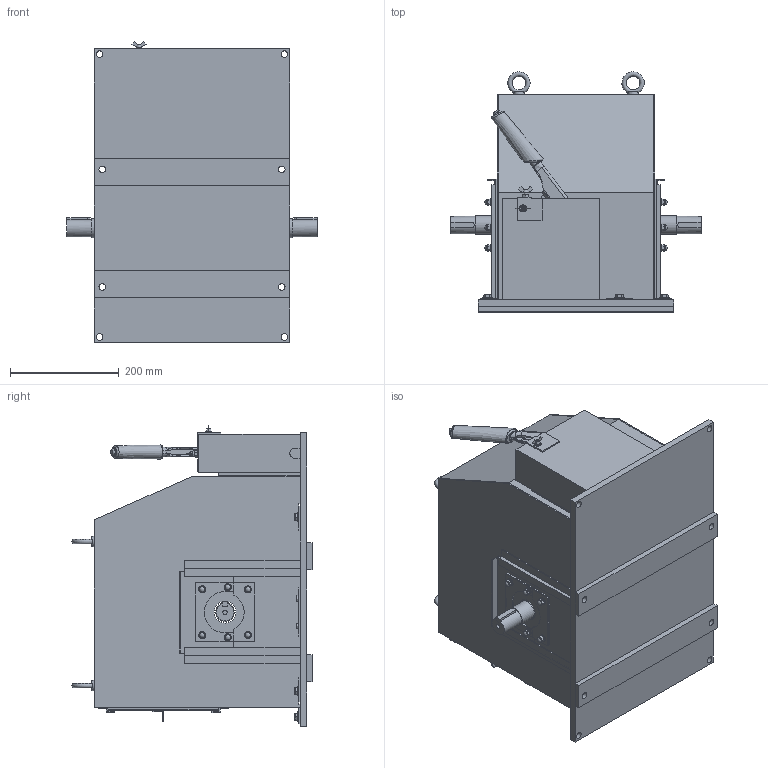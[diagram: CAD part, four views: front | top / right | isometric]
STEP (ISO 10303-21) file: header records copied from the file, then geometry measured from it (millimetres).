
FILE_DESCRIPTION (( 'STEP AP203' ), '1' );
FILE_NAME ('ECE-0512-01_水門用直流電磁ブレーキ.STEP', '2026-03-02T08:06:38', ( '' ), ( '' ), 'SwSTEP 2.0', 'SolidWorks 2025', '' );
FILE_SCHEMA (( 'CONFIG_CONTROL_DESIGN' ));
Length unit declared in the file: millimetre
Products named in the file (1): ECE-0512-01_水門用直流電磁ブレーキ
Bounding box: 460 x 441.47 x 553.21 mm (x, y, z)
Volume: 6881585.1 mm3; surface area: 2072500.2 mm2
Topology: 6 solids, 6 shells, 1070 faces, 2733 edges, 1731 vertices
Faces by surface type: plane 685, cylinder 174, cone 158, sphere 20, torus 17, bspline 16
Full cylindrical faces by diameter (mm): 6 x4, 7 x1, 8 x1, 8.5 x4, 9.5 x1, 10 x16, 12 x13, 13 x18, 18 x7, 32 x2, 35 x5, 40 x2
Entity records: 38250 total; most frequent: CARTESIAN_POINT 13362, ORIENTED_EDGE 5202, DIRECTION 4796, EDGE_CURVE 2601, VERTEX_POINT 1696, VECTOR 1688, LINE 1688, AXIS2_PLACEMENT_3D 1554
